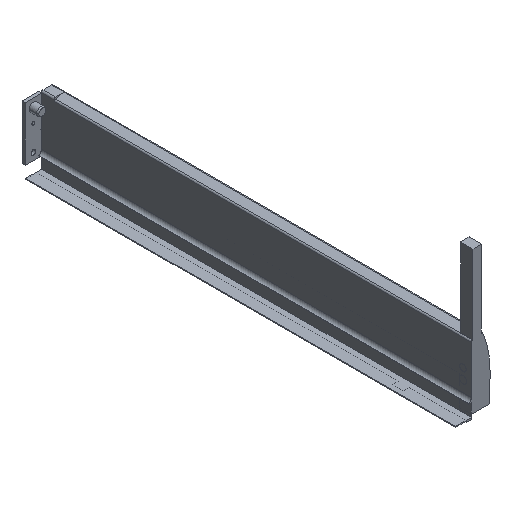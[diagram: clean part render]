
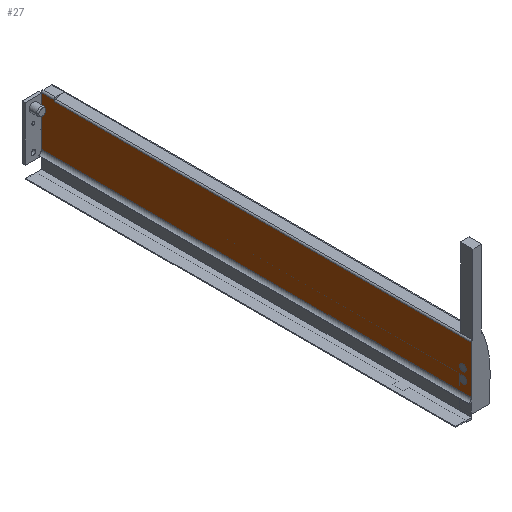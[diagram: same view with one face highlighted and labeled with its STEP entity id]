
A CAD part, isometric view. The second image highlights one B-rep face of the part: STEP entity #27.
In plain terms, the highlighted planar face has unit normal (-1, 0, 0).
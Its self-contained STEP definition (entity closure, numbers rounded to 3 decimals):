
#27 = ADVANCED_FACE ( 'NONE', ( #2276, #2278, #2279 ), #1569, .T. ) ;
#115 = CARTESIAN_POINT ( 'NONE',  ( -21.5, 0., 5.395 ) ) ;
#142 = AXIS2_PLACEMENT_3D ( 'NONE', #2274, #2264, #2261 ) ;
#433 = ORIENTED_EDGE ( 'NONE', *, *, #2075, .F. ) ;
#434 = ORIENTED_EDGE ( 'NONE', *, *, #2076, .T. ) ;
#435 = ORIENTED_EDGE ( 'NONE', *, *, #2071, .T. ) ;
#436 = ORIENTED_EDGE ( 'NONE', *, *, #2023, .F. ) ;
#437 = ORIENTED_EDGE ( 'NONE', *, *, #2077, .F. ) ;
#438 = ORIENTED_EDGE ( 'NONE', *, *, #2078, .T. ) ;
#439 = ORIENTED_EDGE ( 'NONE', *, *, #2079, .T. ) ;
#440 = ORIENTED_EDGE ( 'NONE', *, *, #1920, .T. ) ;
#441 = ORIENTED_EDGE ( 'NONE', *, *, #2080, .T. ) ;
#442 = ORIENTED_EDGE ( 'NONE', *, *, #1924, .T. ) ;
#598 = EDGE_LOOP ( 'NONE', ( #433, #434, #435, #436, #437, #438 ) ) ;
#599 = EDGE_LOOP ( 'NONE', ( #439, #440 ) ) ;
#600 = EDGE_LOOP ( 'NONE', ( #441, #442 ) ) ;
#952 = CARTESIAN_POINT ( 'NONE',  ( -21.5, 0., 68. ) ) ;
#953 = DIRECTION ( 'NONE',  ( 0., 0., -1. ) ) ;
#1053 = CARTESIAN_POINT ( 'NONE',  ( -21.5, 547., 5.395 ) ) ;
#1054 = DIRECTION ( 'NONE',  ( 0., -1., 0. ) ) ;
#1062 = CARTESIAN_POINT ( 'NONE',  ( -21.5, 547., 68. ) ) ;
#1063 = DIRECTION ( 'NONE',  ( 0., -1., 0. ) ) ;
#1064 = CARTESIAN_POINT ( 'NONE',  ( -21.5, 547., 5.395 ) ) ;
#1065 = DIRECTION ( 'NONE',  ( 0., 0., -1. ) ) ;
#1066 = CARTESIAN_POINT ( 'NONE',  ( -21.5, 562.981, 66.06 ) ) ;
#1067 = DIRECTION ( 'NONE',  ( 0., -1., 0. ) ) ;
#1068 = CARTESIAN_POINT ( 'NONE',  ( -21.5, 530.9, 68. ) ) ;
#1069 = DIRECTION ( 'NONE',  ( 0., 0., 1. ) ) ;
#1070 = CARTESIAN_POINT ( 'NONE',  ( -21.5, 10.4, 33. ) ) ;
#1071 = DIRECTION ( 'NONE',  ( 1., 0., 0. ) ) ;
#1072 = DIRECTION ( 'NONE',  ( 0., 0., -1. ) ) ;
#1073 = CARTESIAN_POINT ( 'NONE',  ( -21.5, 10.4, 20. ) ) ;
#1074 = DIRECTION ( 'NONE',  ( 1., 0., 0. ) ) ;
#1075 = DIRECTION ( 'NONE',  ( 0., 0., -1. ) ) ;
#1297 = AXIS2_PLACEMENT_3D ( 'NONE', #1070, #1071, #1072 ) ;
#1298 = AXIS2_PLACEMENT_3D ( 'NONE', #1073, #1074, #1075 ) ;
#1328 = VERTEX_POINT ( 'NONE', #1819 ) ;
#1330 = VERTEX_POINT ( 'NONE', #1821 ) ;
#1342 = VERTEX_POINT ( 'NONE', #1833 ) ;
#1398 = VERTEX_POINT ( 'NONE', #1889 ) ;
#1399 = VERTEX_POINT ( 'NONE', #1890 ) ;
#1403 = VERTEX_POINT ( 'NONE', #1894 ) ;
#1405 = VERTEX_POINT ( 'NONE', #1896 ) ;
#1406 = VERTEX_POINT ( 'NONE', #1897 ) ;
#1446 = VERTEX_POINT ( 'NONE', #115 ) ;
#1479 = VERTEX_POINT ( 'NONE', #2253 ) ;
#1569 = PLANE ( 'NONE',  #2178 ) ;
#1570 = CARTESIAN_POINT ( 'NONE',  ( -21.5, 547., 68. ) ) ;
#1571 = DIRECTION ( 'NONE',  ( -1., 0., 0. ) ) ;
#1572 = DIRECTION ( 'NONE',  ( 0., 0., -1. ) ) ;
#1819 = CARTESIAN_POINT ( 'NONE',  ( -21.5, 530.9, 68. ) ) ;
#1821 = CARTESIAN_POINT ( 'NONE',  ( -21.5, 530.9, 66.06 ) ) ;
#1833 = CARTESIAN_POINT ( 'NONE',  ( -21.5, 547., 68. ) ) ;
#1889 = CARTESIAN_POINT ( 'NONE',  ( -21.5, 10.4, 15.4 ) ) ;
#1890 = CARTESIAN_POINT ( 'NONE',  ( -21.5, 10.4, 37.1 ) ) ;
#1894 = CARTESIAN_POINT ( 'NONE',  ( -21.5, 10.4, 28.9 ) ) ;
#1896 = CARTESIAN_POINT ( 'NONE',  ( -21.5, 10.4, 24.6 ) ) ;
#1897 = CARTESIAN_POINT ( 'NONE',  ( -21.5, 547., 5.395 ) ) ;
#1920 = EDGE_CURVE ( 'NONE', #1399, #1403, #2379, .T. ) ;
#1924 = EDGE_CURVE ( 'NONE', #1405, #1398, #2385, .T. ) ;
#2023 = EDGE_CURVE ( 'NONE', #1479, #1446, #2551, .T. ) ;
#2071 = EDGE_CURVE ( 'NONE', #1406, #1446, #2643, .T. ) ;
#2075 = EDGE_CURVE ( 'NONE', #1342, #1328, #2650, .T. ) ;
#2076 = EDGE_CURVE ( 'NONE', #1342, #1406, #2652, .T. ) ;
#2077 = EDGE_CURVE ( 'NONE', #1330, #1479, #2654, .T. ) ;
#2078 = EDGE_CURVE ( 'NONE', #1330, #1328, #2656, .T. ) ;
#2079 = EDGE_CURVE ( 'NONE', #1403, #1399, #2658, .T. ) ;
#2080 = EDGE_CURVE ( 'NONE', #1398, #1405, #2660, .T. ) ;
#2178 = AXIS2_PLACEMENT_3D ( 'NONE', #1570, #1571, #1572 ) ;
#2243 = AXIS2_PLACEMENT_3D ( 'NONE', #2249, #2245, #2246 ) ;
#2245 = DIRECTION ( 'NONE',  ( 1., 0., 0. ) ) ;
#2246 = DIRECTION ( 'NONE',  ( 0., 0., -1. ) ) ;
#2249 = CARTESIAN_POINT ( 'NONE',  ( -21.5, 10.4, 33. ) ) ;
#2253 = CARTESIAN_POINT ( 'NONE',  ( -21.5, 0., 66.06 ) ) ;
#2261 = DIRECTION ( 'NONE',  ( 0., 0., -1. ) ) ;
#2264 = DIRECTION ( 'NONE',  ( 1., 0., 0. ) ) ;
#2274 = CARTESIAN_POINT ( 'NONE',  ( -21.5, 10.4, 20. ) ) ;
#2276 = FACE_OUTER_BOUND ( 'NONE', #598, .T. ) ;
#2278 = FACE_BOUND ( 'NONE', #599, .T. ) ;
#2279 = FACE_BOUND ( 'NONE', #600, .T. ) ;
#2379 = CIRCLE ( 'NONE', #2243, 4.1 ) ;
#2385 = CIRCLE ( 'NONE', #142, 4.6 ) ;
#2551 = LINE ( 'NONE', #952, #2553 ) ;
#2553 = VECTOR ( 'NONE', #953, 1000. ) ;
#2643 = LINE ( 'NONE', #1053, #2644 ) ;
#2644 = VECTOR ( 'NONE', #1054, 1000. ) ;
#2650 = LINE ( 'NONE', #1062, #2651 ) ;
#2651 = VECTOR ( 'NONE', #1063, 1000. ) ;
#2652 = LINE ( 'NONE', #1064, #2653 ) ;
#2653 = VECTOR ( 'NONE', #1065, 1000. ) ;
#2654 = LINE ( 'NONE', #1066, #2655 ) ;
#2655 = VECTOR ( 'NONE', #1067, 1000. ) ;
#2656 = LINE ( 'NONE', #1068, #2657 ) ;
#2657 = VECTOR ( 'NONE', #1069, 1000. ) ;
#2658 = CIRCLE ( 'NONE', #1297, 4.1 ) ;
#2660 = CIRCLE ( 'NONE', #1298, 4.6 ) ;
